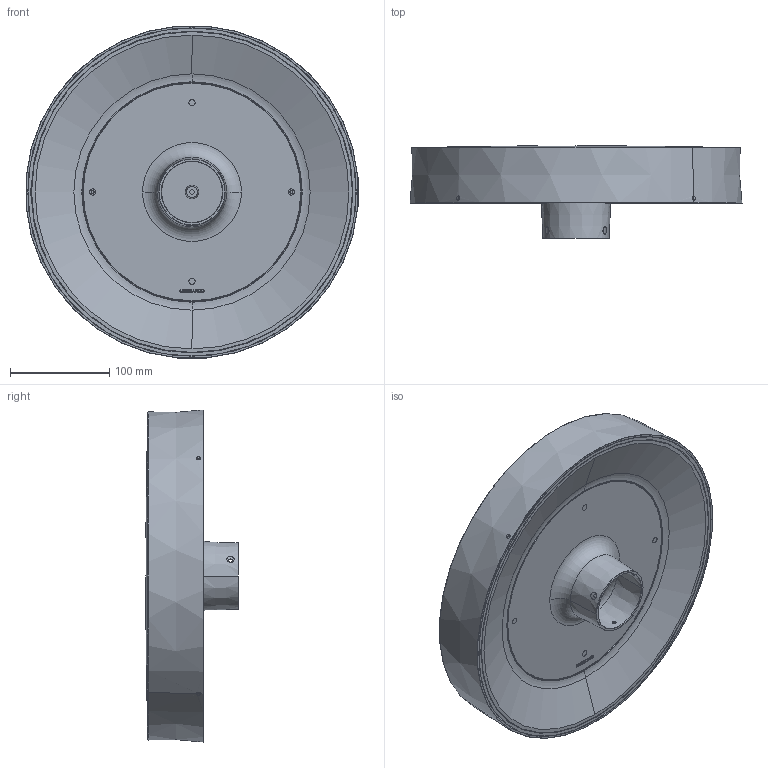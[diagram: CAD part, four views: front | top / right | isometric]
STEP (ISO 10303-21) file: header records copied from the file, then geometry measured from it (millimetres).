
FILE_DESCRIPTION((''),'2;1');
FILE_NAME('ROSS-TONDA-PALO60_SW0001','2025-06-30T14:25:39',('Piccioli'),(''),'CREO PARAMETRIC BY PTC INC, 2025010','CREO PARAMETRIC BY PTC INC, 2025010','');
FILE_SCHEMA(('CONFIG_CONTROL_DESIGN'));
Length unit declared in the file: millimetre
Products named in the file (1): ROSS-TONDA-PALO60_SW0001
Bounding box: 334.63 x 93.6 x 334.63 mm (x, y, z)
Surface area: 449758.2 mm2 (no closed solid volume)
Topology: 0 solids, 17 shells, 47 faces, 373 edges, 336 vertices
Faces by surface type: plane 16, torus 15, cone 14, sphere 2
Entity records: 6831 total; most frequent: CARTESIAN_POINT 4303, ORIENTED_EDGE 440, DIRECTION 424, EDGE_CURVE 371, VERTEX_POINT 336, AXIS2_PLACEMENT_3D 164, B_SPLINE_CURVE_WITH_KNOTS 158, CIRCLE 117
